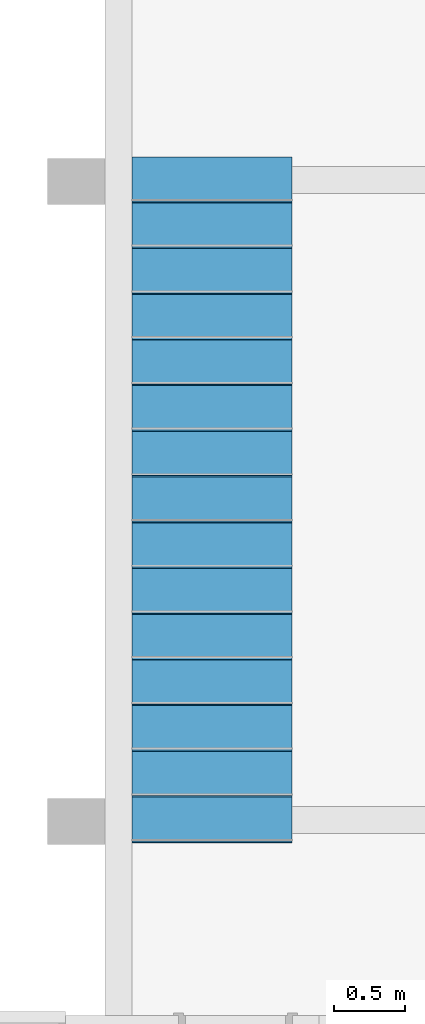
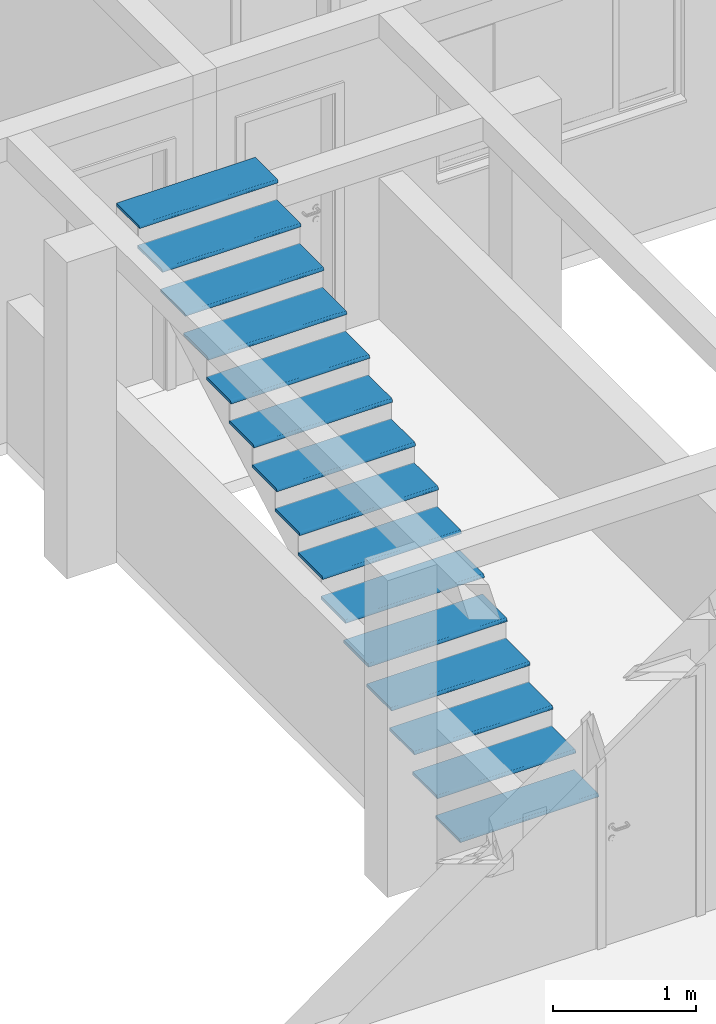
# One storey, part 42 of 43: 15 members, 1 element without a shape of its own.
"""IFC2X3 building model written with IfcOpenShell, lengths in millimetres."""

from ifc_helpers import new_model, entity, si_unit, converted_unit, derived_unit, money_unit, direction, frame, origin_with_axes, place, context, subcontext, project, spatial, faceted_brep, material, type_object, element, aggregate, save


model = new_model("IFC2X3")

# Units and contexts
model_context = context("Model", 3, precision=0.01, world=origin_with_axes(), true_north=direction((0.0, 1.0)))
body_context = subcontext(model_context, "Body", "Model", "MODEL_VIEW")
ifc_project = project(units=[si_unit("LENGTHUNIT", "METRE", prefix="MILLI"), si_unit("AREAUNIT", "SQUARE_METRE"), si_unit("VOLUMEUNIT", "CUBIC_METRE"), converted_unit("PLANEANGLEUNIT", "DEGREE", entity("IfcPlaneAngleMeasure", 0.0174532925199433), si_unit("PLANEANGLEUNIT", "RADIAN"), dimensions=[0, 0, 0, 0, 0, 0, 0]), money_unit("USD"), converted_unit("TIMEUNIT", "Year", entity("IfcTimeMeasure", 31557600.0), si_unit("TIMEUNIT", "SECOND"), dimensions=[0, 0, 1, 0, 0, 0, 0]), si_unit("MASSUNIT", "GRAM", prefix="KILO"), si_unit("THERMODYNAMICTEMPERATUREUNIT", "DEGREE_CELSIUS"), si_unit("LUMINOUSINTENSITYUNIT", "LUMEN"), si_unit("ENERGYUNIT", "JOULE", prefix="MEGA"), derived_unit("THERMALCONDUCTANCEUNIT", [(si_unit("POWERUNIT", "WATT"), 1), (si_unit("LENGTHUNIT", "METRE"), -1), (si_unit("THERMODYNAMICTEMPERATUREUNIT", "KELVIN"), -1)]), derived_unit("SPECIFICHEATCAPACITYUNIT", [(si_unit("ENERGYUNIT", "JOULE"), 1), (si_unit("MASSUNIT", "GRAM", prefix="KILO"), -1), (si_unit("THERMODYNAMICTEMPERATUREUNIT", "KELVIN"), -1)]), derived_unit("MASSDENSITYUNIT", [(si_unit("MASSUNIT", "GRAM", prefix="KILO"), 1), (si_unit("VOLUMEUNIT", "CUBIC_METRE"), -1)])], contexts=[model_context])

# Site, building, storey
site_placement = place(None, origin_with_axes())
site = spatial("IfcSite", under=ifc_project, at=site_placement, Name="Local", CompositionType="ELEMENT")
building_placement = place(site_placement, origin_with_axes())
building = spatial("IfcBuilding", under=site, at=building_placement, Name="Construção", CompositionType="ELEMENT")
storey_placement = place(building_placement, origin_with_axes())
storey = spatial("IfcBuildingStorey", under=building, at=storey_placement, Name="Pavimento Tipo", CompositionType="ELEMENT", Elevation=0.0)

# Stair, members
stair_placement = place(storey_placement, frame((62392.434598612, -357.5384792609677, 0.0), z_axis=(0.0, 0.0, 1.0), x_axis=(1.0, 0.0, 0.0)))
stair = element("IfcStair", 1, at=stair_placement, inside=storey, Name="NúcleoEscada - 001", ShapeType="NOTDEFINED")
ifc_material = material(Name="Madeira")
member_type = type_object("IfcMemberType", Name="IfcMember", PredefinedType="USERDEFINED")
member_1_placement = place(stair_placement, frame((560.0000000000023, 0.0, 180.0), z_axis=(0.0, 0.0, 1.0), x_axis=(1.0, 0.0, 0.0)))
member_1 = element("IfcMember", 2, at=member_1_placement, type_object=member_type, material=ifc_material, Name="NúcleoPiso Esc. - 017", ObjectType="Stair Tread", context=body_context, shape_type="Brep", body=[
    faceted_brep([(-560.0, 344.9999976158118, 0.0), (560.0, 344.9999976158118, 0.0), (560.0, 344.9999976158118, -25.0), (-560.0, 344.9999976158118, -25.0), (-560.0, 20.00000000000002, 0.0), (560.0, 19.99999999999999, 0.0), (560.0, 0.3038449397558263, -16.52703644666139), (560.0, 0.0, -20.0), (560.0, 0.0, -25.0), (560.0, 16.5270364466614, -0.3038449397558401), (560.0, 13.15959713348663, -1.206147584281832), (560.0, 9.99999999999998, -2.679491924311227), (560.0, 7.144247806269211, -4.679111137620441), (560.0, 4.679111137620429, -7.144247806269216), (560.0, 2.679491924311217, -10.0), (560.0, 1.206147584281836, -13.15959713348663), (-560.0, 0.0, -25.0), (-560.0, 0.0, -20.0), (-560.0, 0.3038449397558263, -16.52703644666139), (-560.0, 1.206147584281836, -13.15959713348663), (-560.0, 2.679491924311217, -10.0), (-560.0, 4.679111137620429, -7.144247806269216), (-560.0, 7.144247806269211, -4.679111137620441), (-560.0, 10.00000000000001, -2.679491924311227), (-560.0, 13.15959713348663, -1.206147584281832), (-560.0, 16.5270364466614, -0.3038449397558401)], [[[0, 1, 2, 3]], [[1, 0, 4, 5]], [[6, 7, 8, 2, 1, 5, 9, 10, 11, 12, 13, 14, 15]], [[8, 16, 3, 2]], [[4, 0, 3, 16, 17, 18, 19, 20, 21, 22, 23, 24, 25]], [[9, 5, 4, 25]], [[7, 6, 18, 17]], [[7, 17, 16, 8]], [[10, 9, 25, 24]], [[11, 10, 24, 23]], [[12, 11, 23, 22]], [[13, 12, 22, 21]], [[14, 13, 21, 20]], [[15, 14, 20, 19]], [[6, 15, 19, 18]]]),
])
member_2_placement = place(stair_placement, frame((560.0000000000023, 640.0, 540.0), z_axis=(0.0, 0.0, 1.0), x_axis=(1.0, 0.0, 0.0)))
member_2 = element("IfcMember", 3, at=member_2_placement, type_object=member_type, material=ifc_material, Name="NúcleoPiso Esc. - 017", ObjectType="Stair Tread", context=body_context, shape_type="Brep", body=[
    faceted_brep([(-560.0, 344.9999976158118, 0.0), (560.0, 344.9999976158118, 0.0), (560.0, 344.9999976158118, -25.0), (-560.0, 344.9999976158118, -25.0), (-560.0, 20.00000000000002, 0.0), (560.0, 19.99999999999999, 0.0), (560.0, 0.3038449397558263, -16.52703644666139), (560.0, 0.0, -20.0), (560.0, 0.0, -25.0), (560.0, 16.5270364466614, -0.3038449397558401), (560.0, 13.15959713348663, -1.206147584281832), (560.0, 9.99999999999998, -2.679491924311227), (560.0, 7.144247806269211, -4.679111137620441), (560.0, 4.679111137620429, -7.144247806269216), (560.0, 2.679491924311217, -10.0), (560.0, 1.206147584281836, -13.15959713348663), (-560.0, 0.0, -25.0), (-560.0, 0.0, -20.0), (-560.0, 0.3038449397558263, -16.52703644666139), (-560.0, 1.206147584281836, -13.15959713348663), (-560.0, 2.679491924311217, -10.0), (-560.0, 4.679111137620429, -7.144247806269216), (-560.0, 7.144247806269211, -4.679111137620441), (-560.0, 10.00000000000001, -2.679491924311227), (-560.0, 13.15959713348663, -1.206147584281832), (-560.0, 16.5270364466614, -0.3038449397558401)], [[[0, 1, 2, 3]], [[1, 0, 4, 5]], [[6, 7, 8, 2, 1, 5, 9, 10, 11, 12, 13, 14, 15]], [[8, 16, 3, 2]], [[4, 0, 3, 16, 17, 18, 19, 20, 21, 22, 23, 24, 25]], [[9, 5, 4, 25]], [[7, 6, 18, 17]], [[7, 17, 16, 8]], [[10, 9, 25, 24]], [[11, 10, 24, 23]], [[12, 11, 23, 22]], [[13, 12, 22, 21]], [[14, 13, 21, 20]], [[15, 14, 20, 19]], [[6, 15, 19, 18]]]),
])
member_3_placement = place(stair_placement, frame((560.0000000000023, 319.9999999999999, 360.0000000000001), z_axis=(0.0, 0.0, 1.0), x_axis=(1.0, 0.0, 0.0)))
member_3 = element("IfcMember", 4, at=member_3_placement, type_object=member_type, material=ifc_material, Name="NúcleoPiso Esc. - 017", ObjectType="Stair Tread", context=body_context, shape_type="Brep", body=[
    faceted_brep([(-560.0, 344.9999976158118, 0.0), (560.0, 344.9999976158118, 0.0), (560.0, 344.9999976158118, -25.0), (-560.0, 344.9999976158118, -25.0), (-560.0, 20.00000000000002, 0.0), (560.0, 19.99999999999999, 0.0), (560.0, 0.3038449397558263, -16.52703644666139), (560.0, 0.0, -20.0), (560.0, 0.0, -25.0), (560.0, 16.5270364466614, -0.3038449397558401), (560.0, 13.15959713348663, -1.206147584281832), (560.0, 9.99999999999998, -2.679491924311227), (560.0, 7.144247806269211, -4.679111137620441), (560.0, 4.679111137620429, -7.144247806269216), (560.0, 2.679491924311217, -10.0), (560.0, 1.206147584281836, -13.15959713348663), (-560.0, 0.0, -25.0), (-560.0, 0.0, -20.0), (-560.0, 0.3038449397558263, -16.52703644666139), (-560.0, 1.206147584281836, -13.15959713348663), (-560.0, 2.679491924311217, -10.0), (-560.0, 4.679111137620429, -7.144247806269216), (-560.0, 7.144247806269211, -4.679111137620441), (-560.0, 10.00000000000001, -2.679491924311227), (-560.0, 13.15959713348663, -1.206147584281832), (-560.0, 16.5270364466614, -0.3038449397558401)], [[[0, 1, 2, 3]], [[1, 0, 4, 5]], [[6, 7, 8, 2, 1, 5, 9, 10, 11, 12, 13, 14, 15]], [[8, 16, 3, 2]], [[4, 0, 3, 16, 17, 18, 19, 20, 21, 22, 23, 24, 25]], [[9, 5, 4, 25]], [[7, 6, 18, 17]], [[7, 17, 16, 8]], [[10, 9, 25, 24]], [[11, 10, 24, 23]], [[12, 11, 23, 22]], [[13, 12, 22, 21]], [[14, 13, 21, 20]], [[15, 14, 20, 19]], [[6, 15, 19, 18]]]),
])
member_4_placement = place(stair_placement, frame((560.0000000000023, 960.0, 720.0000000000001), z_axis=(0.0, 0.0, 1.0), x_axis=(1.0, 0.0, 0.0)))
member_4 = element("IfcMember", 5, at=member_4_placement, type_object=member_type, material=ifc_material, Name="NúcleoPiso Esc. - 017", ObjectType="Stair Tread", context=body_context, shape_type="Brep", body=[
    faceted_brep([(-560.0, 344.9999976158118, 0.0), (560.0, 344.9999976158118, 0.0), (560.0, 344.9999976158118, -25.0), (-560.0, 344.9999976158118, -25.0), (-560.0, 20.00000000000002, 0.0), (560.0, 19.99999999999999, 0.0), (560.0, 0.3038449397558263, -16.52703644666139), (560.0, 0.0, -20.0), (560.0, 0.0, -25.0), (560.0, 16.5270364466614, -0.3038449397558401), (560.0, 13.15959713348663, -1.206147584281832), (560.0, 9.99999999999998, -2.679491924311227), (560.0, 7.144247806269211, -4.679111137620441), (560.0, 4.679111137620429, -7.144247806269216), (560.0, 2.679491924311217, -10.0), (560.0, 1.206147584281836, -13.15959713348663), (-560.0, 0.0, -25.0), (-560.0, 0.0, -20.0), (-560.0, 0.3038449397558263, -16.52703644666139), (-560.0, 1.206147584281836, -13.15959713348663), (-560.0, 2.679491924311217, -10.0), (-560.0, 4.679111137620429, -7.144247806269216), (-560.0, 7.144247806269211, -4.679111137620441), (-560.0, 10.00000000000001, -2.679491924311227), (-560.0, 13.15959713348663, -1.206147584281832), (-560.0, 16.5270364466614, -0.3038449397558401)], [[[0, 1, 2, 3]], [[1, 0, 4, 5]], [[6, 7, 8, 2, 1, 5, 9, 10, 11, 12, 13, 14, 15]], [[8, 16, 3, 2]], [[4, 0, 3, 16, 17, 18, 19, 20, 21, 22, 23, 24, 25]], [[9, 5, 4, 25]], [[7, 6, 18, 17]], [[7, 17, 16, 8]], [[10, 9, 25, 24]], [[11, 10, 24, 23]], [[12, 11, 23, 22]], [[13, 12, 22, 21]], [[14, 13, 21, 20]], [[15, 14, 20, 19]], [[6, 15, 19, 18]]]),
])
member_5_placement = place(stair_placement, frame((560.0000000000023, 1600.0, 1080.0), z_axis=(0.0, 0.0, 1.0), x_axis=(1.0, 0.0, 0.0)))
member_5 = element("IfcMember", 6, at=member_5_placement, type_object=member_type, material=ifc_material, Name="NúcleoPiso Esc. - 017", ObjectType="Stair Tread", context=body_context, shape_type="Brep", body=[
    faceted_brep([(-560.0, 344.9999976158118, 0.0), (560.0, 344.9999976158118, 0.0), (560.0, 344.9999976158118, -25.0), (-560.0, 344.9999976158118, -25.0), (-560.0, 20.00000000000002, 0.0), (560.0, 19.99999999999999, 0.0), (560.0, 0.3038449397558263, -16.52703644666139), (560.0, 0.0, -20.0), (560.0, 0.0, -25.0), (560.0, 16.5270364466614, -0.3038449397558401), (560.0, 13.15959713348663, -1.206147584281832), (560.0, 9.99999999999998, -2.679491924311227), (560.0, 7.144247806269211, -4.679111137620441), (560.0, 4.679111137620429, -7.144247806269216), (560.0, 2.679491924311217, -10.0), (560.0, 1.206147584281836, -13.15959713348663), (-560.0, 0.0, -25.0), (-560.0, 0.0, -20.0), (-560.0, 0.3038449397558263, -16.52703644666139), (-560.0, 1.206147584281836, -13.15959713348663), (-560.0, 2.679491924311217, -10.0), (-560.0, 4.679111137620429, -7.144247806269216), (-560.0, 7.144247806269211, -4.679111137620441), (-560.0, 10.00000000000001, -2.679491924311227), (-560.0, 13.15959713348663, -1.206147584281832), (-560.0, 16.5270364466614, -0.3038449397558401)], [[[0, 1, 2, 3]], [[1, 0, 4, 5]], [[6, 7, 8, 2, 1, 5, 9, 10, 11, 12, 13, 14, 15]], [[8, 16, 3, 2]], [[4, 0, 3, 16, 17, 18, 19, 20, 21, 22, 23, 24, 25]], [[9, 5, 4, 25]], [[7, 6, 18, 17]], [[7, 17, 16, 8]], [[10, 9, 25, 24]], [[11, 10, 24, 23]], [[12, 11, 23, 22]], [[13, 12, 22, 21]], [[14, 13, 21, 20]], [[15, 14, 20, 19]], [[6, 15, 19, 18]]]),
])
member_6_placement = place(stair_placement, frame((560.0000000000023, 1280.0, 900.0000000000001), z_axis=(0.0, 0.0, 1.0), x_axis=(1.0, 0.0, 0.0)))
member_6 = element("IfcMember", 7, at=member_6_placement, type_object=member_type, material=ifc_material, Name="NúcleoPiso Esc. - 017", ObjectType="Stair Tread", context=body_context, shape_type="Brep", body=[
    faceted_brep([(-560.0, 344.9999976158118, 0.0), (560.0, 344.9999976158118, 0.0), (560.0, 344.9999976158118, -25.0), (-560.0, 344.9999976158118, -25.0), (-560.0, 20.00000000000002, 0.0), (560.0, 19.99999999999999, 0.0), (560.0, 0.3038449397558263, -16.52703644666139), (560.0, 0.0, -20.0), (560.0, 0.0, -25.0), (560.0, 16.5270364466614, -0.3038449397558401), (560.0, 13.15959713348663, -1.206147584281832), (560.0, 9.99999999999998, -2.679491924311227), (560.0, 7.144247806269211, -4.679111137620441), (560.0, 4.679111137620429, -7.144247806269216), (560.0, 2.679491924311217, -10.0), (560.0, 1.206147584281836, -13.15959713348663), (-560.0, 0.0, -25.0), (-560.0, 0.0, -20.0), (-560.0, 0.3038449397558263, -16.52703644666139), (-560.0, 1.206147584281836, -13.15959713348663), (-560.0, 2.679491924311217, -10.0), (-560.0, 4.679111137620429, -7.144247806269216), (-560.0, 7.144247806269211, -4.679111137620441), (-560.0, 10.00000000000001, -2.679491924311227), (-560.0, 13.15959713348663, -1.206147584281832), (-560.0, 16.5270364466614, -0.3038449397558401)], [[[0, 1, 2, 3]], [[1, 0, 4, 5]], [[6, 7, 8, 2, 1, 5, 9, 10, 11, 12, 13, 14, 15]], [[8, 16, 3, 2]], [[4, 0, 3, 16, 17, 18, 19, 20, 21, 22, 23, 24, 25]], [[9, 5, 4, 25]], [[7, 6, 18, 17]], [[7, 17, 16, 8]], [[10, 9, 25, 24]], [[11, 10, 24, 23]], [[12, 11, 23, 22]], [[13, 12, 22, 21]], [[14, 13, 21, 20]], [[15, 14, 20, 19]], [[6, 15, 19, 18]]]),
])
member_7_placement = place(stair_placement, frame((560.0000000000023, 2240.0, 1440.0), z_axis=(0.0, 0.0, 1.0), x_axis=(1.0, 0.0, 0.0)))
member_7 = element("IfcMember", 8, at=member_7_placement, type_object=member_type, material=ifc_material, Name="NúcleoPiso Esc. - 017", ObjectType="Stair Tread", context=body_context, shape_type="Brep", body=[
    faceted_brep([(-560.0, 344.9999976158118, 0.0), (560.0, 344.9999976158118, 0.0), (560.0, 344.9999976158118, -25.0), (-560.0, 344.9999976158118, -25.0), (-560.0, 20.00000000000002, 0.0), (560.0, 19.99999999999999, 0.0), (560.0, 0.3038449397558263, -16.52703644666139), (560.0, 0.0, -20.0), (560.0, 0.0, -25.0), (560.0, 16.5270364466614, -0.3038449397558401), (560.0, 13.15959713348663, -1.206147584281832), (560.0, 9.99999999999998, -2.679491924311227), (560.0, 7.144247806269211, -4.679111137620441), (560.0, 4.679111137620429, -7.144247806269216), (560.0, 2.679491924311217, -10.0), (560.0, 1.206147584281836, -13.15959713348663), (-560.0, 0.0, -25.0), (-560.0, 0.0, -20.0), (-560.0, 0.3038449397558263, -16.52703644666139), (-560.0, 1.206147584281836, -13.15959713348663), (-560.0, 2.679491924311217, -10.0), (-560.0, 4.679111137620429, -7.144247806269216), (-560.0, 7.144247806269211, -4.679111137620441), (-560.0, 10.00000000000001, -2.679491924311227), (-560.0, 13.15959713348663, -1.206147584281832), (-560.0, 16.5270364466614, -0.3038449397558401)], [[[0, 1, 2, 3]], [[1, 0, 4, 5]], [[6, 7, 8, 2, 1, 5, 9, 10, 11, 12, 13, 14, 15]], [[8, 16, 3, 2]], [[4, 0, 3, 16, 17, 18, 19, 20, 21, 22, 23, 24, 25]], [[9, 5, 4, 25]], [[7, 6, 18, 17]], [[7, 17, 16, 8]], [[10, 9, 25, 24]], [[11, 10, 24, 23]], [[12, 11, 23, 22]], [[13, 12, 22, 21]], [[14, 13, 21, 20]], [[15, 14, 20, 19]], [[6, 15, 19, 18]]]),
])
member_8_placement = place(stair_placement, frame((560.0000000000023, 2560.0, 1620.0), z_axis=(0.0, 0.0, 1.0), x_axis=(1.0, 0.0, 0.0)))
member_8 = element("IfcMember", 9, at=member_8_placement, type_object=member_type, material=ifc_material, Name="NúcleoPiso Esc. - 017", ObjectType="Stair Tread", context=body_context, shape_type="Brep", body=[
    faceted_brep([(-560.0, 344.9999976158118, 0.0), (560.0, 344.9999976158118, 0.0), (560.0, 344.9999976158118, -25.0), (-560.0, 344.9999976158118, -25.0), (-560.0, 20.00000000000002, 0.0), (560.0, 19.99999999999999, 0.0), (560.0, 0.3038449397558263, -16.52703644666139), (560.0, 0.0, -20.0), (560.0, 0.0, -25.0), (560.0, 16.5270364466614, -0.3038449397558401), (560.0, 13.15959713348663, -1.206147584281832), (560.0, 9.99999999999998, -2.679491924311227), (560.0, 7.144247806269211, -4.679111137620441), (560.0, 4.679111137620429, -7.144247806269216), (560.0, 2.679491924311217, -10.0), (560.0, 1.206147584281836, -13.15959713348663), (-560.0, 0.0, -25.0), (-560.0, 0.0, -20.0), (-560.0, 0.3038449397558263, -16.52703644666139), (-560.0, 1.206147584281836, -13.15959713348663), (-560.0, 2.679491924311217, -10.0), (-560.0, 4.679111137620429, -7.144247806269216), (-560.0, 7.144247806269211, -4.679111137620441), (-560.0, 10.00000000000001, -2.679491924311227), (-560.0, 13.15959713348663, -1.206147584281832), (-560.0, 16.5270364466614, -0.3038449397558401)], [[[0, 1, 2, 3]], [[1, 0, 4, 5]], [[6, 7, 8, 2, 1, 5, 9, 10, 11, 12, 13, 14, 15]], [[8, 16, 3, 2]], [[4, 0, 3, 16, 17, 18, 19, 20, 21, 22, 23, 24, 25]], [[9, 5, 4, 25]], [[7, 6, 18, 17]], [[7, 17, 16, 8]], [[10, 9, 25, 24]], [[11, 10, 24, 23]], [[12, 11, 23, 22]], [[13, 12, 22, 21]], [[14, 13, 21, 20]], [[15, 14, 20, 19]], [[6, 15, 19, 18]]]),
])
member_9_placement = place(stair_placement, frame((560.0000000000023, 2880.0, 1800.0), z_axis=(0.0, 0.0, 1.0), x_axis=(1.0, 0.0, 0.0)))
member_9 = element("IfcMember", 10, at=member_9_placement, type_object=member_type, material=ifc_material, Name="NúcleoPiso Esc. - 017", ObjectType="Stair Tread", context=body_context, shape_type="Brep", body=[
    faceted_brep([(-560.0, 344.9999976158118, 0.0), (560.0, 344.9999976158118, 0.0), (560.0, 344.9999976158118, -25.0), (-560.0, 344.9999976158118, -25.0), (-560.0, 20.00000000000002, 0.0), (560.0, 19.99999999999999, 0.0), (560.0, 0.3038449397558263, -16.52703644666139), (560.0, 0.0, -20.0), (560.0, 0.0, -25.0), (560.0, 16.5270364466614, -0.3038449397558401), (560.0, 13.15959713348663, -1.206147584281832), (560.0, 9.99999999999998, -2.679491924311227), (560.0, 7.144247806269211, -4.679111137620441), (560.0, 4.679111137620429, -7.144247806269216), (560.0, 2.679491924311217, -10.0), (560.0, 1.206147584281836, -13.15959713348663), (-560.0, 0.0, -25.0), (-560.0, 0.0, -20.0), (-560.0, 0.3038449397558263, -16.52703644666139), (-560.0, 1.206147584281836, -13.15959713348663), (-560.0, 2.679491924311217, -10.0), (-560.0, 4.679111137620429, -7.144247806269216), (-560.0, 7.144247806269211, -4.679111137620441), (-560.0, 10.00000000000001, -2.679491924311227), (-560.0, 13.15959713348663, -1.206147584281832), (-560.0, 16.5270364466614, -0.3038449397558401)], [[[0, 1, 2, 3]], [[1, 0, 4, 5]], [[6, 7, 8, 2, 1, 5, 9, 10, 11, 12, 13, 14, 15]], [[8, 16, 3, 2]], [[4, 0, 3, 16, 17, 18, 19, 20, 21, 22, 23, 24, 25]], [[9, 5, 4, 25]], [[7, 6, 18, 17]], [[7, 17, 16, 8]], [[10, 9, 25, 24]], [[11, 10, 24, 23]], [[12, 11, 23, 22]], [[13, 12, 22, 21]], [[14, 13, 21, 20]], [[15, 14, 20, 19]], [[6, 15, 19, 18]]]),
])
member_10_placement = place(stair_placement, frame((560.0000000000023, 3200.0, 1980.0), z_axis=(0.0, 0.0, 1.0), x_axis=(1.0, 0.0, 0.0)))
member_10 = element("IfcMember", 11, at=member_10_placement, type_object=member_type, material=ifc_material, Name="NúcleoPiso Esc. - 017", ObjectType="Stair Tread", context=body_context, shape_type="Brep", body=[
    faceted_brep([(-560.0, 344.9999976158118, 0.0), (560.0, 344.9999976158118, 0.0), (560.0, 344.9999976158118, -25.0), (-560.0, 344.9999976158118, -25.0), (-560.0, 20.00000000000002, 0.0), (560.0, 19.99999999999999, 0.0), (560.0, 0.3038449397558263, -16.52703644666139), (560.0, 0.0, -20.0), (560.0, 0.0, -25.0), (560.0, 16.5270364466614, -0.3038449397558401), (560.0, 13.15959713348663, -1.206147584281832), (560.0, 9.99999999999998, -2.679491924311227), (560.0, 7.144247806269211, -4.679111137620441), (560.0, 4.679111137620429, -7.144247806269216), (560.0, 2.679491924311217, -10.0), (560.0, 1.206147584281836, -13.15959713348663), (-560.0, 0.0, -25.0), (-560.0, 0.0, -20.0), (-560.0, 0.3038449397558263, -16.52703644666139), (-560.0, 1.206147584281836, -13.15959713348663), (-560.0, 2.679491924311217, -10.0), (-560.0, 4.679111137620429, -7.144247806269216), (-560.0, 7.144247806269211, -4.679111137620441), (-560.0, 10.00000000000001, -2.679491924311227), (-560.0, 13.15959713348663, -1.206147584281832), (-560.0, 16.5270364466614, -0.3038449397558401)], [[[0, 1, 2, 3]], [[1, 0, 4, 5]], [[6, 7, 8, 2, 1, 5, 9, 10, 11, 12, 13, 14, 15]], [[8, 16, 3, 2]], [[4, 0, 3, 16, 17, 18, 19, 20, 21, 22, 23, 24, 25]], [[9, 5, 4, 25]], [[7, 6, 18, 17]], [[7, 17, 16, 8]], [[10, 9, 25, 24]], [[11, 10, 24, 23]], [[12, 11, 23, 22]], [[13, 12, 22, 21]], [[14, 13, 21, 20]], [[15, 14, 20, 19]], [[6, 15, 19, 18]]]),
])
member_11_placement = place(stair_placement, frame((560.0000000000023, 1920.0, 1260.0), z_axis=(0.0, 0.0, 1.0), x_axis=(1.0, 0.0, 0.0)))
member_11 = element("IfcMember", 12, at=member_11_placement, type_object=member_type, material=ifc_material, Name="NúcleoPiso Esc. - 017", ObjectType="Stair Tread", context=body_context, shape_type="Brep", body=[
    faceted_brep([(-560.0, 344.9999976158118, 0.0), (560.0, 344.9999976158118, 0.0), (560.0, 344.9999976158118, -25.0), (-560.0, 344.9999976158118, -25.0), (-560.0, 20.00000000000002, 0.0), (560.0, 19.99999999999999, 0.0), (560.0, 0.3038449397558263, -16.52703644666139), (560.0, 0.0, -20.0), (560.0, 0.0, -25.0), (560.0, 16.5270364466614, -0.3038449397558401), (560.0, 13.15959713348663, -1.206147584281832), (560.0, 9.99999999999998, -2.679491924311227), (560.0, 7.144247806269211, -4.679111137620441), (560.0, 4.679111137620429, -7.144247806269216), (560.0, 2.679491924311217, -10.0), (560.0, 1.206147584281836, -13.15959713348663), (-560.0, 0.0, -25.0), (-560.0, 0.0, -20.0), (-560.0, 0.3038449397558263, -16.52703644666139), (-560.0, 1.206147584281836, -13.15959713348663), (-560.0, 2.679491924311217, -10.0), (-560.0, 4.679111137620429, -7.144247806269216), (-560.0, 7.144247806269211, -4.679111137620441), (-560.0, 10.00000000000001, -2.679491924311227), (-560.0, 13.15959713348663, -1.206147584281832), (-560.0, 16.5270364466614, -0.3038449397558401)], [[[0, 1, 2, 3]], [[1, 0, 4, 5]], [[6, 7, 8, 2, 1, 5, 9, 10, 11, 12, 13, 14, 15]], [[8, 16, 3, 2]], [[4, 0, 3, 16, 17, 18, 19, 20, 21, 22, 23, 24, 25]], [[9, 5, 4, 25]], [[7, 6, 18, 17]], [[7, 17, 16, 8]], [[10, 9, 25, 24]], [[11, 10, 24, 23]], [[12, 11, 23, 22]], [[13, 12, 22, 21]], [[14, 13, 21, 20]], [[15, 14, 20, 19]], [[6, 15, 19, 18]]]),
])
member_12_placement = place(stair_placement, frame((560.0000000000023, 3520.0, 2160.0), z_axis=(0.0, 0.0, 1.0), x_axis=(1.0, 0.0, 0.0)))
member_12 = element("IfcMember", 13, at=member_12_placement, type_object=member_type, material=ifc_material, Name="NúcleoPiso Esc. - 017", ObjectType="Stair Tread", context=body_context, shape_type="Brep", body=[
    faceted_brep([(-560.0, 344.9999976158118, 0.0), (560.0, 344.9999976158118, 0.0), (560.0, 344.9999976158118, -25.0), (-560.0, 344.9999976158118, -25.0), (-560.0, 20.00000000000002, 0.0), (560.0, 19.99999999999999, 0.0), (560.0, 0.3038449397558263, -16.52703644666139), (560.0, 0.0, -20.0), (560.0, 0.0, -25.0), (560.0, 16.5270364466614, -0.3038449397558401), (560.0, 13.15959713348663, -1.206147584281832), (560.0, 9.99999999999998, -2.679491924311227), (560.0, 7.144247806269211, -4.679111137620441), (560.0, 4.679111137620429, -7.144247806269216), (560.0, 2.679491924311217, -10.0), (560.0, 1.206147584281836, -13.15959713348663), (-560.0, 0.0, -25.0), (-560.0, 0.0, -20.0), (-560.0, 0.3038449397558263, -16.52703644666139), (-560.0, 1.206147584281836, -13.15959713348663), (-560.0, 2.679491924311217, -10.0), (-560.0, 4.679111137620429, -7.144247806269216), (-560.0, 7.144247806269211, -4.679111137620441), (-560.0, 10.00000000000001, -2.679491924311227), (-560.0, 13.15959713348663, -1.206147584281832), (-560.0, 16.5270364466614, -0.3038449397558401)], [[[0, 1, 2, 3]], [[1, 0, 4, 5]], [[6, 7, 8, 2, 1, 5, 9, 10, 11, 12, 13, 14, 15]], [[8, 16, 3, 2]], [[4, 0, 3, 16, 17, 18, 19, 20, 21, 22, 23, 24, 25]], [[9, 5, 4, 25]], [[7, 6, 18, 17]], [[7, 17, 16, 8]], [[10, 9, 25, 24]], [[11, 10, 24, 23]], [[12, 11, 23, 22]], [[13, 12, 22, 21]], [[14, 13, 21, 20]], [[15, 14, 20, 19]], [[6, 15, 19, 18]]]),
])
member_13_placement = place(stair_placement, frame((560.0000000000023, 4160.0, 2520.0), z_axis=(0.0, 0.0, 1.0), x_axis=(1.0, 0.0, 0.0)))
member_13 = element("IfcMember", 14, at=member_13_placement, type_object=member_type, material=ifc_material, Name="NúcleoPiso Esc. - 017", ObjectType="Stair Tread", context=body_context, shape_type="Brep", body=[
    faceted_brep([(-560.0, 344.9999976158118, 0.0), (560.0, 344.9999976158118, 0.0), (560.0, 344.9999976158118, -25.0), (-560.0, 344.9999976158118, -25.0), (-560.0, 20.00000000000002, 0.0), (560.0, 19.99999999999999, 0.0), (560.0, 0.3038449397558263, -16.52703644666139), (560.0, 0.0, -20.0), (560.0, 0.0, -25.0), (560.0, 16.5270364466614, -0.3038449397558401), (560.0, 13.15959713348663, -1.206147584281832), (560.0, 9.99999999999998, -2.679491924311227), (560.0, 7.144247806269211, -4.679111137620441), (560.0, 4.679111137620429, -7.144247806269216), (560.0, 2.679491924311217, -10.0), (560.0, 1.206147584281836, -13.15959713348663), (-560.0, 0.0, -25.0), (-560.0, 0.0, -20.0), (-560.0, 0.3038449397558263, -16.52703644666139), (-560.0, 1.206147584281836, -13.15959713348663), (-560.0, 2.679491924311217, -10.0), (-560.0, 4.679111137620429, -7.144247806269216), (-560.0, 7.144247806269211, -4.679111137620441), (-560.0, 10.00000000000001, -2.679491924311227), (-560.0, 13.15959713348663, -1.206147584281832), (-560.0, 16.5270364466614, -0.3038449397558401)], [[[0, 1, 2, 3]], [[1, 0, 4, 5]], [[6, 7, 8, 2, 1, 5, 9, 10, 11, 12, 13, 14, 15]], [[8, 16, 3, 2]], [[4, 0, 3, 16, 17, 18, 19, 20, 21, 22, 23, 24, 25]], [[9, 5, 4, 25]], [[7, 6, 18, 17]], [[7, 17, 16, 8]], [[10, 9, 25, 24]], [[11, 10, 24, 23]], [[12, 11, 23, 22]], [[13, 12, 22, 21]], [[14, 13, 21, 20]], [[15, 14, 20, 19]], [[6, 15, 19, 18]]]),
])
member_14_placement = place(stair_placement, frame((560.0000000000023, 4480.0, 2700.0), z_axis=(0.0, 0.0, 1.0), x_axis=(1.0, 0.0, 0.0)))
member_14 = element("IfcMember", 15, at=member_14_placement, type_object=member_type, material=ifc_material, Name="NúcleoPiso Esc. - 017", ObjectType="Stair Tread", context=body_context, shape_type="Brep", body=[
    faceted_brep([(-560.0, 319.9999999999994, 0.0), (560.0, 319.9999999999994, 0.0), (560.0, 319.9999999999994, -25.0), (-560.0, 319.9999999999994, -25.0), (-560.0, 19.99999999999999, 0.0), (560.0, 19.99999999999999, 0.0), (560.0, 0.3038449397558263, -16.52703644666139), (560.0, 0.0, -20.0), (560.0, 0.0, -25.0), (560.0, 16.5270364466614, -0.3038449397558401), (560.0, 13.15959713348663, -1.206147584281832), (560.0, 10.00000000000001, -2.679491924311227), (560.0, 7.144247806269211, -4.679111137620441), (560.0, 4.679111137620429, -7.144247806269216), (560.0, 2.679491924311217, -10.0), (560.0, 1.206147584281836, -13.15959713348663), (-560.0, 0.0, -25.0), (-560.0, 0.0, -20.0), (-560.0, 0.3038449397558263, -16.52703644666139), (-560.0, 1.206147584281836, -13.15959713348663), (-560.0, 2.679491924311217, -10.0), (-560.0, 4.679111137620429, -7.144247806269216), (-560.0, 7.144247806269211, -4.679111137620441), (-560.0, 10.00000000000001, -2.679491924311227), (-560.0, 13.15959713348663, -1.206147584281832), (-560.0, 16.5270364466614, -0.3038449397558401)], [[[0, 1, 2, 3]], [[1, 0, 4, 5]], [[6, 7, 8, 2, 1, 5, 9, 10, 11, 12, 13, 14, 15]], [[8, 16, 3, 2]], [[4, 0, 3, 16, 17, 18, 19, 20, 21, 22, 23, 24, 25]], [[9, 5, 4, 25]], [[7, 6, 18, 17]], [[7, 17, 16, 8]], [[10, 9, 25, 24]], [[11, 10, 24, 23]], [[12, 11, 23, 22]], [[13, 12, 22, 21]], [[14, 13, 21, 20]], [[15, 14, 20, 19]], [[6, 15, 19, 18]]]),
])
member_15_placement = place(stair_placement, frame((560.0000000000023, 3840.0, 2340.0), z_axis=(0.0, 0.0, 1.0), x_axis=(1.0, 0.0, 0.0)))
member_15 = element("IfcMember", 16, at=member_15_placement, type_object=member_type, material=ifc_material, Name="NúcleoPiso Esc. - 017", ObjectType="Stair Tread", context=body_context, shape_type="Brep", body=[
    faceted_brep([(-560.0, 344.9999976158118, 0.0), (560.0, 344.9999976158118, 0.0), (560.0, 344.9999976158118, -25.0), (-560.0, 344.9999976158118, -25.0), (-560.0, 20.00000000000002, 0.0), (560.0, 19.99999999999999, 0.0), (560.0, 0.3038449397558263, -16.52703644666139), (560.0, 0.0, -20.0), (560.0, 0.0, -25.0), (560.0, 16.5270364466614, -0.3038449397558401), (560.0, 13.15959713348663, -1.206147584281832), (560.0, 9.99999999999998, -2.679491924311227), (560.0, 7.144247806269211, -4.679111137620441), (560.0, 4.679111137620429, -7.144247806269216), (560.0, 2.679491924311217, -10.0), (560.0, 1.206147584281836, -13.15959713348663), (-560.0, 0.0, -25.0), (-560.0, 0.0, -20.0), (-560.0, 0.3038449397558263, -16.52703644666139), (-560.0, 1.206147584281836, -13.15959713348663), (-560.0, 2.679491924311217, -10.0), (-560.0, 4.679111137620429, -7.144247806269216), (-560.0, 7.144247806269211, -4.679111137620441), (-560.0, 10.00000000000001, -2.679491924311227), (-560.0, 13.15959713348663, -1.206147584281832), (-560.0, 16.5270364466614, -0.3038449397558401)], [[[0, 1, 2, 3]], [[1, 0, 4, 5]], [[6, 7, 8, 2, 1, 5, 9, 10, 11, 12, 13, 14, 15]], [[8, 16, 3, 2]], [[4, 0, 3, 16, 17, 18, 19, 20, 21, 22, 23, 24, 25]], [[9, 5, 4, 25]], [[7, 6, 18, 17]], [[7, 17, 16, 8]], [[10, 9, 25, 24]], [[11, 10, 24, 23]], [[12, 11, 23, 22]], [[13, 12, 22, 21]], [[14, 13, 21, 20]], [[15, 14, 20, 19]], [[6, 15, 19, 18]]]),
])
aggregate(stair, [member_1, member_2, member_3, member_4, member_5, member_6, member_7, member_8, member_9, member_10, member_11, member_12, member_13, member_14, member_15])

save(model, "model.ifc")
